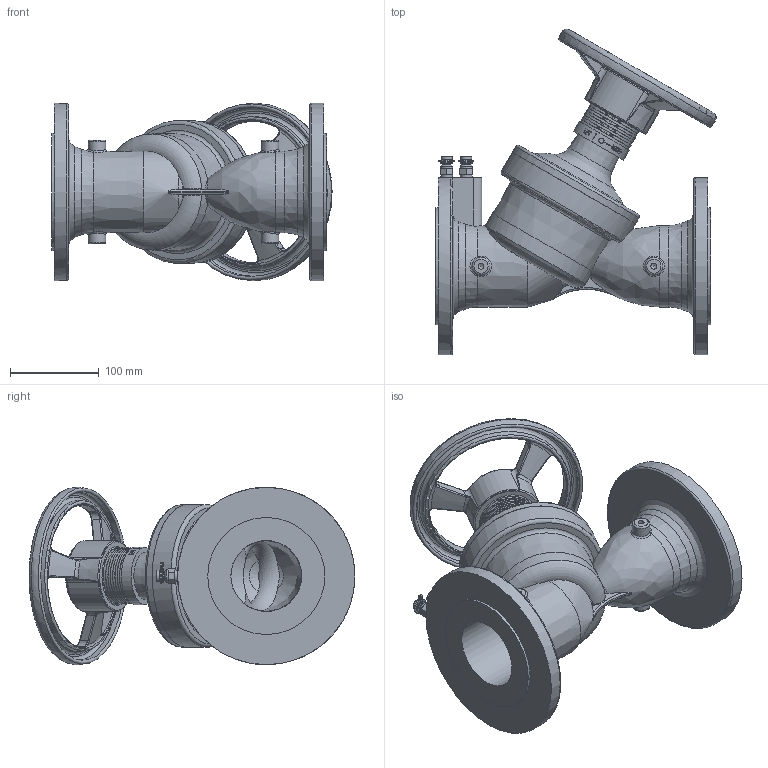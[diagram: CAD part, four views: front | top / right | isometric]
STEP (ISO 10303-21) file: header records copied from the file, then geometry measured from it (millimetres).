
FILE_DESCRIPTION((''),'2;1');
FILE_NAME('P:\Fastrack\53972_CRANE 3D\DM921-941\WORKSPACE\DM921-941\DM941_DN80\DM941_DN80.stp','2011-02-25T11:36:22',('btaylor'),(''),'Autodesk Inventor 2008','Autodesk Inventor 2008','');
FILE_SCHEMA(('AUTOMOTIVE_DESIGN { 1 0 10303 214 1 1 1 1 }'));
Length unit declared in the file: millimetre
Products named in the file (1): DM941_DN80A
Bounding box: 316.32 x 367.6 x 200.17 mm (x, y, z)
Volume: 923093.9 mm3; surface area: 507478.2 mm2
Topology: 5 solids, 6 shells, 893 faces, 2252 edges, 1438 vertices
Faces by surface type: plane 347, bspline 281, cylinder 150, cone 81, torus 34
Full cylindrical faces by diameter (mm): 6 x2, 7.4 x2, 8 x8, 9.5 x6, 11 x2, 12.7 x2, 13.7 x2, 17.3 x1, 20 x4, 24 x1, 53 x1, 55.7 x1, 58 x1, 62 x4, 65 x1, 108 x1, 113 x1, 125 x1, 132 x2
Entity records: 74954 total; most frequent: CARTESIAN_POINT 55297, ORIENTED_EDGE 4110, DIRECTION 3112, EDGE_CURVE 2055, VERTEX_POINT 1375, AXIS2_PLACEMENT_3D 1154, EDGE_LOOP 1118, STYLED_ITEM 894
